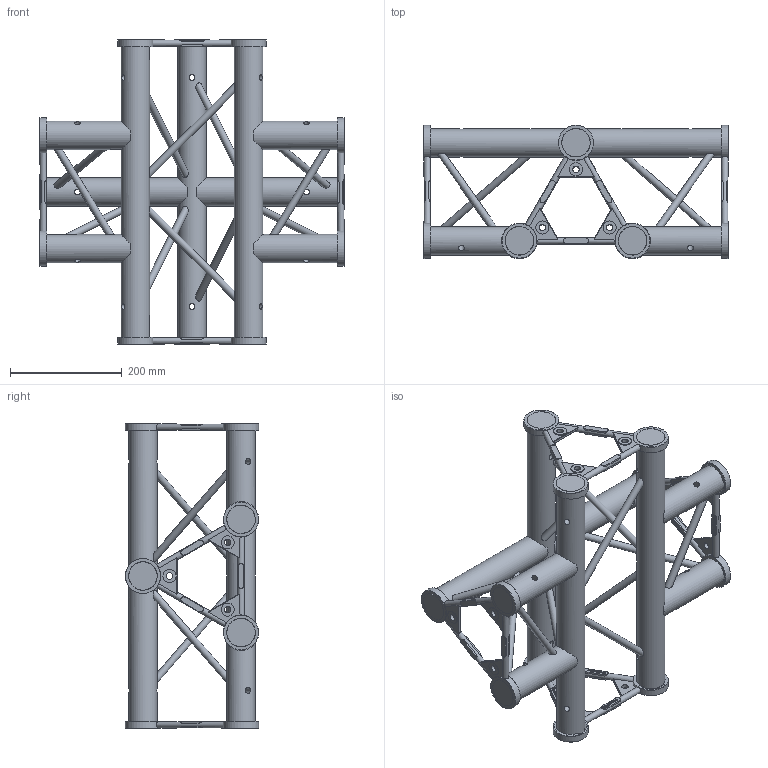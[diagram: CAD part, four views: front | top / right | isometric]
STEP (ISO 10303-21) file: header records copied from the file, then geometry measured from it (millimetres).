
FILE_DESCRIPTION(/* description */ (''),/* implementation_level */ '2;1');
FILE_NAME(/* name */ 'C:\Users\stephan\Desktop\A03\Corners\112030029.stp',/* time_stamp */ '2016-02-12T15:09:37+01:00',/* author */ ('Stephan'),/* organization */ (''),/* preprocessor_version */ 'ST-DEVELOPER v15.6',/* originating_system */ 'Autodesk Inventor 2015',/* authorisation */ '');
FILE_SCHEMA (('AUTOMOTIVE_DESIGN { 1 0 10303 214 3 1 1 }'));
Products named in the file (1): 160025871
Bounding box: 546.2 x 239.1 x 546.2 mm (x, y, z)
Volume: 6245285.3 mm3; surface area: 736173.8 mm2
Topology: 5 solids, 5 shells, 3893 faces, 10446 edges, 6952 vertices
Faces by surface type: plane 1920, bspline 1712, cylinder 213, cone 24, torus 24
Full cylindrical faces by diameter (mm): 10.5 x12, 11.5 x24, 12.7 x12, 23.5 x12, 50.8 x9, 51.3 x12, 63.3 x12
Entity records: 139540 total; most frequent: CARTESIAN_POINT 50890, ORIENTED_EDGE 20472, DIRECTION 11268, EDGE_CURVE 10236, VERTEX_POINT 6876, LINE 6200, VECTOR 6200, EDGE_LOOP 4516
